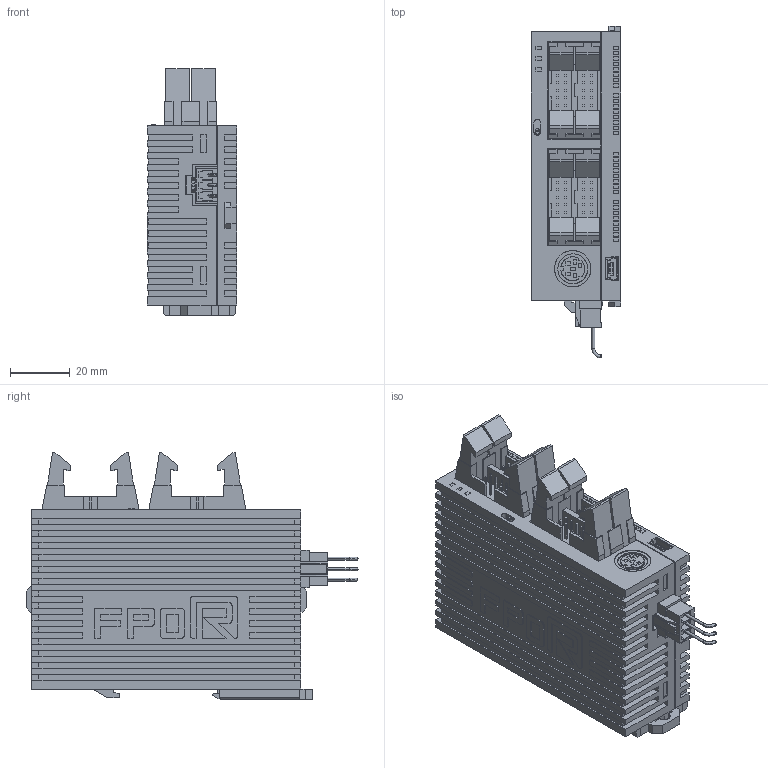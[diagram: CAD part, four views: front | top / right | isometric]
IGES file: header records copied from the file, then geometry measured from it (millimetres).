
Start section: SolidWorks IGES file using analytic representation for surfaces
Global section: file name: C:\catalog\FP0R_catalog\afp0rc32t\afp0rc32t.IGS; native system: SolidWorks 2010; preprocessor: SolidWorks 2010; author: ek1676; date: 130628.134256; units: millimetre
Bounding box: 30 x 111.2 x 82.7 mm (x, y, z)
Surface area: 35787.2 mm2 (no closed solid volume)
Topology: 0 solids, 0 shells, 1278 faces, 7806 edges, 7806 vertices
Faces by surface type: bspline 1218, revolution 60
